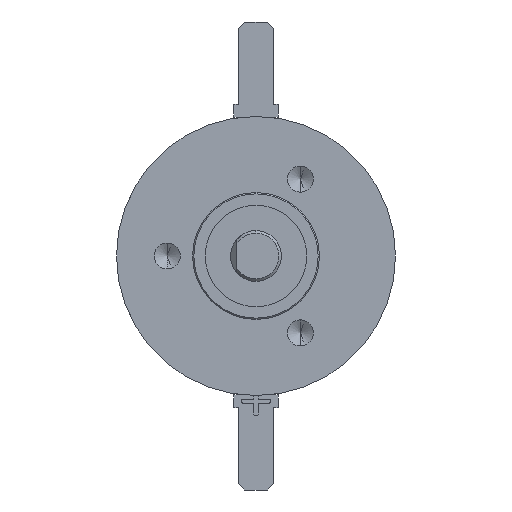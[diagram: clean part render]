
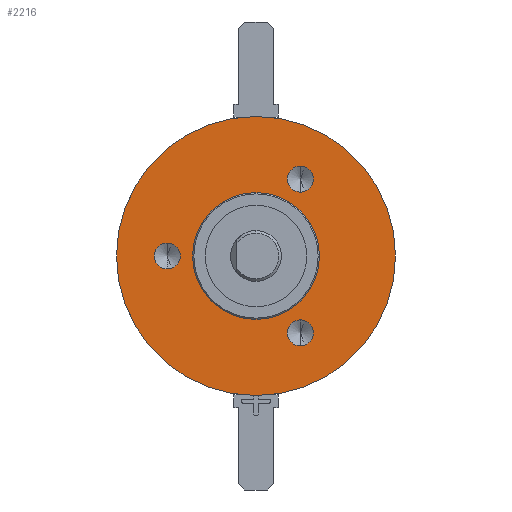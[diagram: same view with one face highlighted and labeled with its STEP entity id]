
A CAD part, left-side view. The second image highlights one B-rep face of the part: STEP entity #2216.
In plain terms, the highlighted planar face has unit normal (-1, 0, 0).
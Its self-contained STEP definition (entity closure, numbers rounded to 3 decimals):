
#602 = FACE_OUTER_BOUND ( 'NONE', #4061, .T. ) ;
#619 = FACE_BOUND ( 'NONE', #6353, .T. ) ;
#676 = CARTESIAN_POINT ( 'NONE',  ( 14.85, 7., -1.025 ) ) ;
#768 = DIRECTION ( 'NONE',  ( 0., 0., 1. ) ) ;
#772 = DIRECTION ( 'NONE',  ( -1., 0., 0. ) ) ;
#800 = CARTESIAN_POINT ( 'NONE',  ( 14.85, 0., 0. ) ) ;
#983 = VERTEX_POINT ( 'NONE', #7877 ) ;
#1098 = CIRCLE ( 'NONE', #13317, 11. ) ;
#1175 = FACE_BOUND ( 'NONE', #3932, .T. ) ;
#2140 = FACE_BOUND ( 'NONE', #4250, .T. ) ;
#2216 = ADVANCED_FACE ( 'NONE', ( #2140, #1175, #5289, #619, #602 ), #3700, .F. ) ;
#2384 = EDGE_CURVE ( 'NONE', #3085, #6320, #7443, .T. ) ;
#2791 = VERTEX_POINT ( 'NONE', #12011 ) ;
#2849 = CARTESIAN_POINT ( 'NONE',  ( 14.85, 0., -5. ) ) ;
#2940 = CARTESIAN_POINT ( 'NONE',  ( 14.85, 5., 0. ) ) ;
#3085 = VERTEX_POINT ( 'NONE', #9345 ) ;
#3149 = DIRECTION ( 'NONE',  ( 0., 0., -1. ) ) ;
#3321 = EDGE_LOOP ( 'NONE', ( #12541, #12675 ) ) ;
#3360 = DIRECTION ( 'NONE',  ( 1., 0., 0. ) ) ;
#3577 = VERTEX_POINT ( 'NONE', #5307 ) ;
#3700 = PLANE ( 'NONE',  #14964 ) ;
#3771 = CARTESIAN_POINT ( 'NONE',  ( 14.85, -3.5, -7.087 ) ) ;
#3932 = EDGE_LOOP ( 'NONE', ( #11983, #12278 ) ) ;
#4061 = EDGE_LOOP ( 'NONE', ( #13537, #14191 ) ) ;
#4249 = EDGE_CURVE ( 'NONE', #12412, #2791, #1098, .T. ) ;
#4250 = EDGE_LOOP ( 'NONE', ( #11349, #11538 ) ) ;
#4971 = CARTESIAN_POINT ( 'NONE',  ( 14.85, 0., 11. ) ) ;
#5080 = EDGE_CURVE ( 'NONE', #2791, #12412, #8585, .T. ) ;
#5137 = EDGE_CURVE ( 'NONE', #15456, #11155, #15137, .T. ) ;
#5163 = EDGE_CURVE ( 'NONE', #983, #3577, #5467, .T. ) ;
#5289 = FACE_BOUND ( 'NONE', #3321, .T. ) ;
#5307 = CARTESIAN_POINT ( 'NONE',  ( 14.85, -3.5, 5.037 ) ) ;
#5350 = EDGE_CURVE ( 'NONE', #7890, #13214, #11658, .T. ) ;
#5354 = EDGE_CURVE ( 'NONE', #6320, #3085, #14730, .T. ) ;
#5388 = EDGE_CURVE ( 'NONE', #11155, #15456, #5453, .T. ) ;
#5453 = CIRCLE ( 'NONE', #12184, 1.025 ) ;
#5467 = CIRCLE ( 'NONE', #12449, 1.025 ) ;
#6320 = VERTEX_POINT ( 'NONE', #2849 ) ;
#6353 = EDGE_LOOP ( 'NONE', ( #12864, #13369 ) ) ;
#6534 = CIRCLE ( 'NONE', #9429, 1.025 ) ;
#6541 = CARTESIAN_POINT ( 'NONE',  ( 14.85, 7., 1.025 ) ) ;
#6778 = EDGE_CURVE ( 'NONE', #3577, #983, #11938, .T. ) ;
#7443 = CIRCLE ( 'NONE', #14839, 5. ) ;
#7877 = CARTESIAN_POINT ( 'NONE',  ( 14.85, -3.5, 7.087 ) ) ;
#7890 = VERTEX_POINT ( 'NONE', #8587 ) ;
#7920 = EDGE_CURVE ( 'NONE', #13214, #7890, #6534, .T. ) ;
#8157 = DIRECTION ( 'NONE',  ( 0., 0., 1. ) ) ;
#8173 = DIRECTION ( 'NONE',  ( -1., 0., 0. ) ) ;
#8208 = CARTESIAN_POINT ( 'NONE',  ( 14.85, -3.5, -6.062 ) ) ;
#8585 = CIRCLE ( 'NONE', #12551, 11. ) ;
#8587 = CARTESIAN_POINT ( 'NONE',  ( 14.85, -3.5, -5.037 ) ) ;
#8709 = DIRECTION ( 'NONE',  ( 0., 0., 1. ) ) ;
#8725 = DIRECTION ( 'NONE',  ( -1., 0., 0. ) ) ;
#8852 = CARTESIAN_POINT ( 'NONE',  ( 14.85, -3.5, 6.062 ) ) ;
#9345 = CARTESIAN_POINT ( 'NONE',  ( 14.85, 0., 5. ) ) ;
#9429 = AXIS2_PLACEMENT_3D ( 'NONE', #8208, #8173, #8157 ) ;
#10644 = AXIS2_PLACEMENT_3D ( 'NONE', #8852, #8725, #8709 ) ;
#10958 = DIRECTION ( 'NONE',  ( 0., 0., 1. ) ) ;
#10999 = CARTESIAN_POINT ( 'NONE',  ( 14.85, 7., 0. ) ) ;
#11155 = VERTEX_POINT ( 'NONE', #676 ) ;
#11163 = DIRECTION ( 'NONE',  ( 0., 0., 1. ) ) ;
#11181 = DIRECTION ( 'NONE',  ( -1., 0., 0. ) ) ;
#11196 = CARTESIAN_POINT ( 'NONE',  ( 14.85, 0., 0. ) ) ;
#11231 = DIRECTION ( 'NONE',  ( 0., 0., 1. ) ) ;
#11236 = DIRECTION ( 'NONE',  ( -1., 0., 0. ) ) ;
#11249 = CARTESIAN_POINT ( 'NONE',  ( 14.85, -3.5, -6.062 ) ) ;
#11254 = DIRECTION ( 'NONE',  ( -1., 0., 0. ) ) ;
#11349 = ORIENTED_EDGE ( 'NONE', *, *, #5137, .F. ) ;
#11538 = ORIENTED_EDGE ( 'NONE', *, *, #5388, .F. ) ;
#11658 = CIRCLE ( 'NONE', #12205, 1.025 ) ;
#11938 = CIRCLE ( 'NONE', #10644, 1.025 ) ;
#11983 = ORIENTED_EDGE ( 'NONE', *, *, #5163, .F. ) ;
#12011 = CARTESIAN_POINT ( 'NONE',  ( 14.85, 0., -11. ) ) ;
#12184 = AXIS2_PLACEMENT_3D ( 'NONE', #10999, #11254, #10958 ) ;
#12202 = AXIS2_PLACEMENT_3D ( 'NONE', #11196, #11181, #11163 ) ;
#12205 = AXIS2_PLACEMENT_3D ( 'NONE', #11249, #11236, #11231 ) ;
#12278 = ORIENTED_EDGE ( 'NONE', *, *, #6778, .F. ) ;
#12412 = VERTEX_POINT ( 'NONE', #4971 ) ;
#12449 = AXIS2_PLACEMENT_3D ( 'NONE', #13052, #13015, #12994 ) ;
#12462 = AXIS2_PLACEMENT_3D ( 'NONE', #13216, #13195, #13175 ) ;
#12541 = ORIENTED_EDGE ( 'NONE', *, *, #5350, .F. ) ;
#12551 = AXIS2_PLACEMENT_3D ( 'NONE', #13802, #13758, #13754 ) ;
#12675 = ORIENTED_EDGE ( 'NONE', *, *, #7920, .F. ) ;
#12864 = ORIENTED_EDGE ( 'NONE', *, *, #2384, .F. ) ;
#12994 = DIRECTION ( 'NONE',  ( 0., 0., 1. ) ) ;
#13015 = DIRECTION ( 'NONE',  ( -1., 0., 0. ) ) ;
#13052 = CARTESIAN_POINT ( 'NONE',  ( 14.85, -3.5, 6.062 ) ) ;
#13175 = DIRECTION ( 'NONE',  ( 0., 0., 1. ) ) ;
#13195 = DIRECTION ( 'NONE',  ( -1., 0., 0. ) ) ;
#13214 = VERTEX_POINT ( 'NONE', #3771 ) ;
#13216 = CARTESIAN_POINT ( 'NONE',  ( 14.85, 7., 0. ) ) ;
#13317 = AXIS2_PLACEMENT_3D ( 'NONE', #800, #772, #768 ) ;
#13369 = ORIENTED_EDGE ( 'NONE', *, *, #5354, .F. ) ;
#13537 = ORIENTED_EDGE ( 'NONE', *, *, #4249, .T. ) ;
#13754 = DIRECTION ( 'NONE',  ( 0., 0., 1. ) ) ;
#13758 = DIRECTION ( 'NONE',  ( -1., 0., 0. ) ) ;
#13802 = CARTESIAN_POINT ( 'NONE',  ( 14.85, 0., 0. ) ) ;
#14191 = ORIENTED_EDGE ( 'NONE', *, *, #5080, .T. ) ;
#14730 = CIRCLE ( 'NONE', #12202, 5. ) ;
#14839 = AXIS2_PLACEMENT_3D ( 'NONE', #15429, #15408, #15395 ) ;
#14964 = AXIS2_PLACEMENT_3D ( 'NONE', #2940, #3360, #3149 ) ;
#15137 = CIRCLE ( 'NONE', #12462, 1.025 ) ;
#15395 = DIRECTION ( 'NONE',  ( 0., 0., 1. ) ) ;
#15408 = DIRECTION ( 'NONE',  ( -1., 0., 0. ) ) ;
#15429 = CARTESIAN_POINT ( 'NONE',  ( 14.85, 0., 0. ) ) ;
#15456 = VERTEX_POINT ( 'NONE', #6541 ) ;
